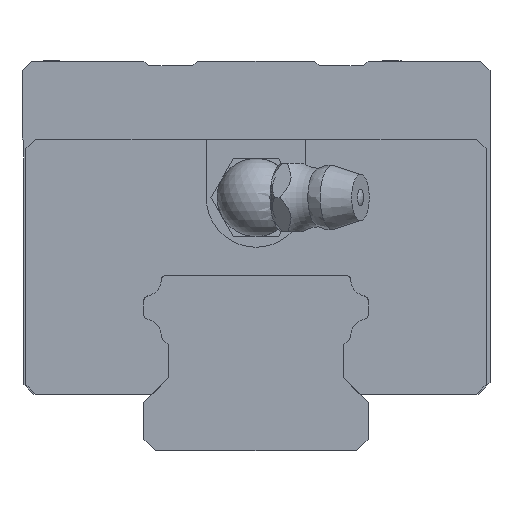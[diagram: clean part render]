
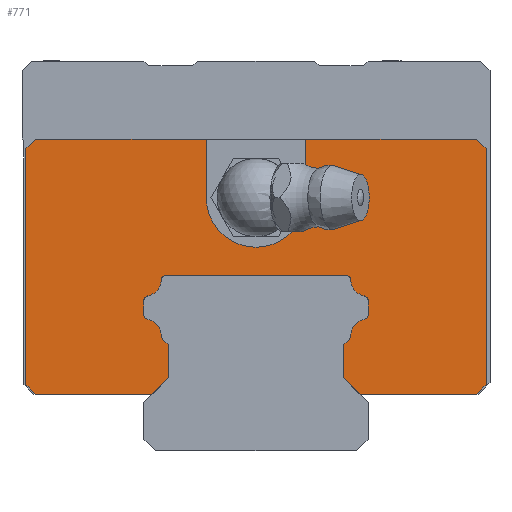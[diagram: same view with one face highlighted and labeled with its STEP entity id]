
A CAD part, front view. The second image highlights one B-rep face of the part: STEP entity #771.
In plain terms, the highlighted planar face has unit normal (0, -1, 0).
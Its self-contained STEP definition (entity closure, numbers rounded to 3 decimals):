
#563=CIRCLE('',#3370,0.5);
#565=CIRCLE('',#3373,1.7);
#567=CIRCLE('',#3376,0.5);
#569=CIRCLE('',#3380,0.5);
#571=CIRCLE('',#3383,1.7);
#573=CIRCLE('',#3386,0.5);
#575=CIRCLE('',#3390,0.5);
#577=CIRCLE('',#3393,1.7);
#579=CIRCLE('',#3396,0.5);
#581=CIRCLE('',#3400,0.5);
#583=CIRCLE('',#3403,1.7);
#585=CIRCLE('',#3406,0.5);
#609=CIRCLE('',#3481,5.1);
#771=ADVANCED_FACE('',(#1005),#884,.T.);
#884=PLANE('',#3482);
#1005=FACE_OUTER_BOUND('',#1214,.T.);
#1214=EDGE_LOOP('',(#1889,#1890,#1891,#1892,#1893,#1894,#1895,#1896,#1897,
#1898,#1899,#1900,#1901,#1902,#1903,#1904,#1905,#1906,#1907,#1908,#1909,
#1910,#1911,#1912,#1913,#1914,#1915,#1916,#1917,#1918,#1919,#1920,#1921,
#1922));
#1889=ORIENTED_EDGE('',*,*,#2559,.F.);
#1890=ORIENTED_EDGE('',*,*,#2562,.F.);
#1891=ORIENTED_EDGE('',*,*,#2565,.F.);
#1892=ORIENTED_EDGE('',*,*,#2568,.F.);
#1893=ORIENTED_EDGE('',*,*,#2571,.F.);
#1894=ORIENTED_EDGE('',*,*,#2574,.F.);
#1895=ORIENTED_EDGE('',*,*,#2577,.F.);
#1896=ORIENTED_EDGE('',*,*,#2580,.F.);
#1897=ORIENTED_EDGE('',*,*,#2583,.F.);
#1898=ORIENTED_EDGE('',*,*,#2586,.F.);
#1899=ORIENTED_EDGE('',*,*,#2589,.F.);
#1900=ORIENTED_EDGE('',*,*,#2592,.F.);
#1901=ORIENTED_EDGE('',*,*,#2595,.F.);
#1902=ORIENTED_EDGE('',*,*,#2598,.F.);
#1903=ORIENTED_EDGE('',*,*,#2601,.F.);
#1904=ORIENTED_EDGE('',*,*,#2604,.F.);
#1905=ORIENTED_EDGE('',*,*,#2607,.F.);
#1906=ORIENTED_EDGE('',*,*,#2610,.F.);
#1907=ORIENTED_EDGE('',*,*,#2613,.F.);
#1908=ORIENTED_EDGE('',*,*,#2616,.F.);
#1909=ORIENTED_EDGE('',*,*,#2619,.F.);
#1910=ORIENTED_EDGE('',*,*,#2622,.T.);
#1911=ORIENTED_EDGE('',*,*,#2663,.T.);
#1912=ORIENTED_EDGE('',*,*,#2660,.T.);
#1913=ORIENTED_EDGE('',*,*,#2665,.T.);
#1914=ORIENTED_EDGE('',*,*,#2671,.T.);
#1915=ORIENTED_EDGE('',*,*,#2681,.F.);
#1916=ORIENTED_EDGE('',*,*,#2682,.F.);
#1917=ORIENTED_EDGE('',*,*,#2683,.F.);
#1918=ORIENTED_EDGE('',*,*,#2667,.T.);
#1919=ORIENTED_EDGE('',*,*,#2672,.T.);
#1920=ORIENTED_EDGE('',*,*,#2656,.T.);
#1921=ORIENTED_EDGE('',*,*,#2662,.T.);
#1922=ORIENTED_EDGE('',*,*,#2556,.T.);
#2219=VERTEX_POINT('',#5018);
#2220=VERTEX_POINT('',#5020);
#2221=VERTEX_POINT('',#5024);
#2223=VERTEX_POINT('',#5030);
#2225=VERTEX_POINT('',#5036);
#2227=VERTEX_POINT('',#5042);
#2229=VERTEX_POINT('',#5048);
#2231=VERTEX_POINT('',#5054);
#2233=VERTEX_POINT('',#5060);
#2235=VERTEX_POINT('',#5066);
#2237=VERTEX_POINT('',#5072);
#2239=VERTEX_POINT('',#5078);
#2241=VERTEX_POINT('',#5084);
#2243=VERTEX_POINT('',#5090);
#2245=VERTEX_POINT('',#5096);
#2247=VERTEX_POINT('',#5102);
#2249=VERTEX_POINT('',#5108);
#2251=VERTEX_POINT('',#5114);
#2253=VERTEX_POINT('',#5120);
#2255=VERTEX_POINT('',#5126);
#2257=VERTEX_POINT('',#5132);
#2259=VERTEX_POINT('',#5138);
#2261=VERTEX_POINT('',#5144);
#2263=VERTEX_POINT('',#5150);
#2282=VERTEX_POINT('',#5233);
#2283=VERTEX_POINT('',#5235);
#2285=VERTEX_POINT('',#5241);
#2286=VERTEX_POINT('',#5243);
#2287=VERTEX_POINT('',#5251);
#2288=VERTEX_POINT('',#5255);
#2289=VERTEX_POINT('',#5257);
#2292=VERTEX_POINT('',#5263);
#2301=VERTEX_POINT('',#5295);
#2302=VERTEX_POINT('',#5297);
#2556=EDGE_CURVE('',#2220,#2219,#2872,.T.);
#2559=EDGE_CURVE('',#2221,#2219,#2875,.T.);
#2562=EDGE_CURVE('',#2223,#2221,#2878,.T.);
#2565=EDGE_CURVE('',#2225,#2223,#2881,.T.);
#2568=EDGE_CURVE('',#2227,#2225,#563,.T.);
#2571=EDGE_CURVE('',#2229,#2227,#565,.T.);
#2574=EDGE_CURVE('',#2231,#2229,#567,.T.);
#2577=EDGE_CURVE('',#2233,#2231,#2887,.T.);
#2580=EDGE_CURVE('',#2235,#2233,#569,.T.);
#2583=EDGE_CURVE('',#2237,#2235,#571,.T.);
#2586=EDGE_CURVE('',#2239,#2237,#573,.T.);
#2589=EDGE_CURVE('',#2241,#2239,#2893,.T.);
#2592=EDGE_CURVE('',#2243,#2241,#575,.T.);
#2595=EDGE_CURVE('',#2245,#2243,#577,.T.);
#2598=EDGE_CURVE('',#2247,#2245,#579,.T.);
#2601=EDGE_CURVE('',#2249,#2247,#2899,.T.);
#2604=EDGE_CURVE('',#2251,#2249,#581,.T.);
#2607=EDGE_CURVE('',#2253,#2251,#583,.T.);
#2610=EDGE_CURVE('',#2255,#2253,#585,.T.);
#2613=EDGE_CURVE('',#2257,#2255,#2905,.T.);
#2616=EDGE_CURVE('',#2259,#2257,#2908,.T.);
#2619=EDGE_CURVE('',#2261,#2259,#2911,.T.);
#2622=EDGE_CURVE('',#2261,#2263,#2914,.T.);
#2656=EDGE_CURVE('',#2283,#2282,#2935,.T.);
#2660=EDGE_CURVE('',#2286,#2285,#2938,.T.);
#2662=EDGE_CURVE('',#2282,#2220,#2940,.T.);
#2663=EDGE_CURVE('',#2263,#2286,#2941,.T.);
#2665=EDGE_CURVE('',#2285,#2287,#2943,.T.);
#2667=EDGE_CURVE('',#2289,#2288,#2945,.T.);
#2671=EDGE_CURVE('',#2287,#2292,#2949,.T.);
#2672=EDGE_CURVE('',#2288,#2283,#2950,.T.);
#2681=EDGE_CURVE('',#2301,#2292,#2951,.T.);
#2682=EDGE_CURVE('',#2302,#2301,#609,.T.);
#2683=EDGE_CURVE('',#2289,#2302,#2952,.T.);
#2872=LINE('',#5019,#3124);
#2875=LINE('',#5026,#3127);
#2878=LINE('',#5032,#3130);
#2881=LINE('',#5038,#3133);
#2887=LINE('',#5062,#3139);
#2893=LINE('',#5086,#3145);
#2899=LINE('',#5110,#3151);
#2905=LINE('',#5134,#3157);
#2908=LINE('',#5140,#3160);
#2911=LINE('',#5146,#3163);
#2914=LINE('',#5151,#3166);
#2935=LINE('',#5234,#3187);
#2938=LINE('',#5242,#3190);
#2940=LINE('',#5246,#3192);
#2941=LINE('',#5248,#3193);
#2943=LINE('',#5252,#3195);
#2945=LINE('',#5256,#3197);
#2949=LINE('',#5264,#3201);
#2950=LINE('',#5266,#3202);
#2951=LINE('',#5294,#3203);
#2952=LINE('',#5298,#3204);
#3124=VECTOR('',#3942,1.);
#3127=VECTOR('',#3947,1.);
#3130=VECTOR('',#3952,1.);
#3133=VECTOR('',#3957,1.);
#3139=VECTOR('',#3983,1.);
#3145=VECTOR('',#4009,1.);
#3151=VECTOR('',#4035,1.);
#3157=VECTOR('',#4061,1.);
#3160=VECTOR('',#4066,1.);
#3163=VECTOR('',#4071,1.);
#3166=VECTOR('',#4076,1.);
#3187=VECTOR('',#4183,1.);
#3190=VECTOR('',#4190,1.);
#3192=VECTOR('',#4194,1.);
#3193=VECTOR('',#4197,1.);
#3195=VECTOR('',#4201,1.);
#3197=VECTOR('',#4205,1.);
#3201=VECTOR('',#4209,1.);
#3202=VECTOR('',#4212,1.);
#3203=VECTOR('',#4251,1.);
#3204=VECTOR('',#4254,1.);
#3370=AXIS2_PLACEMENT_3D('',#5044,#3962,#3963);
#3373=AXIS2_PLACEMENT_3D('',#5050,#3969,#3970);
#3376=AXIS2_PLACEMENT_3D('',#5056,#3976,#3977);
#3380=AXIS2_PLACEMENT_3D('',#5068,#3988,#3989);
#3383=AXIS2_PLACEMENT_3D('',#5074,#3995,#3996);
#3386=AXIS2_PLACEMENT_3D('',#5080,#4002,#4003);
#3390=AXIS2_PLACEMENT_3D('',#5092,#4014,#4015);
#3393=AXIS2_PLACEMENT_3D('',#5098,#4021,#4022);
#3396=AXIS2_PLACEMENT_3D('',#5104,#4028,#4029);
#3400=AXIS2_PLACEMENT_3D('',#5116,#4040,#4041);
#3403=AXIS2_PLACEMENT_3D('',#5122,#4047,#4048);
#3406=AXIS2_PLACEMENT_3D('',#5128,#4054,#4055);
#3481=AXIS2_PLACEMENT_3D('',#5296,#4252,#4253);
#3482=AXIS2_PLACEMENT_3D('',#5299,#4255,#4256);
#3942=DIRECTION('',(1.,0.,0.));
#3947=DIRECTION('',(-0.707,0.,-0.707));
#3952=DIRECTION('',(0.,0.,-1.));
#3957=DIRECTION('',(0.707,0.,-0.707));
#3962=DIRECTION('',(0.,-1.,0.));
#3963=DIRECTION('',(0.,0.,-1.));
#3969=DIRECTION('',(0.,1.,0.));
#3970=DIRECTION('',(0.,0.,-1.));
#3976=DIRECTION('',(0.,-1.,0.));
#3977=DIRECTION('',(0.,0.,-1.));
#3983=DIRECTION('',(0.,0.,-1.));
#3988=DIRECTION('',(0.,-1.,0.));
#3989=DIRECTION('',(0.,0.,-1.));
#3995=DIRECTION('',(0.,1.,0.));
#3996=DIRECTION('',(0.,0.,-1.));
#4002=DIRECTION('',(0.,-1.,0.));
#4003=DIRECTION('',(0.,0.,-1.));
#4009=DIRECTION('',(-1.,0.,0.));
#4014=DIRECTION('',(0.,-1.,0.));
#4015=DIRECTION('',(0.,0.,-1.));
#4021=DIRECTION('',(0.,1.,0.));
#4022=DIRECTION('',(0.,0.,-1.));
#4028=DIRECTION('',(0.,-1.,0.));
#4029=DIRECTION('',(0.,0.,-1.));
#4035=DIRECTION('',(0.,0.,1.));
#4040=DIRECTION('',(0.,-1.,0.));
#4041=DIRECTION('',(0.,0.,-1.));
#4047=DIRECTION('',(0.,1.,0.));
#4048=DIRECTION('',(0.,0.,-1.));
#4054=DIRECTION('',(0.,-1.,0.));
#4055=DIRECTION('',(0.,0.,-1.));
#4061=DIRECTION('',(0.707,0.,0.707));
#4066=DIRECTION('',(0.,0.,1.));
#4071=DIRECTION('',(-0.707,0.,0.707));
#4076=DIRECTION('',(1.,0.,0.));
#4183=DIRECTION('',(0.,0.,-1.));
#4190=DIRECTION('',(0.,0.,1.));
#4194=DIRECTION('',(0.707,0.,-0.707));
#4197=DIRECTION('',(0.707,0.,0.707));
#4201=DIRECTION('',(-0.707,0.,0.707));
#4205=DIRECTION('',(-1.,0.,0.));
#4209=DIRECTION('',(-1.,0.,0.));
#4212=DIRECTION('',(-0.707,0.,-0.707));
#4251=DIRECTION('',(0.,0.,1.));
#4252=DIRECTION('',(0.,-1.,0.));
#4253=DIRECTION('',(1.,0.,0.));
#4254=DIRECTION('',(0.,0.,-1.));
#4255=DIRECTION('',(0.,-1.,0.));
#4256=DIRECTION('',(0.,0.,-1.));
#5018=CARTESIAN_POINT('',(-10.7,-19.,5.8));
#5019=CARTESIAN_POINT('',(-22.6,-19.,5.8));
#5020=CARTESIAN_POINT('',(-22.6,-19.,5.8));
#5024=CARTESIAN_POINT('',(-9.,-19.,7.5));
#5026=CARTESIAN_POINT('',(4.75,-19.,21.25));
#5030=CARTESIAN_POINT('',(-9.,-19.,10.9));
#5032=CARTESIAN_POINT('',(-9.,-19.,26.));
#5036=CARTESIAN_POINT('',(-9.58,-19.,11.48));
#5038=CARTESIAN_POINT('',(-12.05,-19.,13.95));
#5042=CARTESIAN_POINT('',(-9.726,-19.,11.834));
#5044=CARTESIAN_POINT('',(-9.226,-19.,11.833));
#5048=CARTESIAN_POINT('',(-11.097,-19.,13.504));
#5050=CARTESIAN_POINT('',(-11.426,-19.,11.836));
#5054=CARTESIAN_POINT('',(-11.5,-19.,13.995));
#5056=CARTESIAN_POINT('',(-11.,-19.,13.995));
#5060=CARTESIAN_POINT('',(-11.5,-19.,15.412));
#5062=CARTESIAN_POINT('',(-11.5,-19.,26.));
#5066=CARTESIAN_POINT('',(-11.097,-19.,15.902));
#5068=CARTESIAN_POINT('',(-11.,-19.,15.412));
#5072=CARTESIAN_POINT('',(-9.727,-19.,17.516));
#5074=CARTESIAN_POINT('',(-11.426,-19.,17.57));
#5078=CARTESIAN_POINT('',(-9.227,-19.,18.));
#5080=CARTESIAN_POINT('',(-9.227,-19.,17.5));
#5084=CARTESIAN_POINT('',(9.227,-19.,18.));
#5086=CARTESIAN_POINT('',(0.,-19.,18.));
#5090=CARTESIAN_POINT('',(9.727,-19.,17.516));
#5092=CARTESIAN_POINT('',(9.227,-19.,17.5));
#5096=CARTESIAN_POINT('',(11.097,-19.,15.902));
#5098=CARTESIAN_POINT('',(11.426,-19.,17.57));
#5102=CARTESIAN_POINT('',(11.5,-19.,15.412));
#5104=CARTESIAN_POINT('',(11.,-19.,15.412));
#5108=CARTESIAN_POINT('',(11.5,-19.,13.995));
#5110=CARTESIAN_POINT('',(11.5,-19.,26.));
#5114=CARTESIAN_POINT('',(11.097,-19.,13.504));
#5116=CARTESIAN_POINT('',(11.,-19.,13.995));
#5120=CARTESIAN_POINT('',(9.726,-19.,11.834));
#5122=CARTESIAN_POINT('',(11.426,-19.,11.836));
#5126=CARTESIAN_POINT('',(9.58,-19.,11.48));
#5128=CARTESIAN_POINT('',(9.226,-19.,11.833));
#5132=CARTESIAN_POINT('',(9.,-19.,10.9));
#5134=CARTESIAN_POINT('',(12.05,-19.,13.95));
#5138=CARTESIAN_POINT('',(9.,-19.,7.5));
#5140=CARTESIAN_POINT('',(9.,-19.,26.));
#5144=CARTESIAN_POINT('',(10.7,-19.,5.8));
#5146=CARTESIAN_POINT('',(-4.75,-19.,21.25));
#5150=CARTESIAN_POINT('',(22.6,-19.,5.8));
#5151=CARTESIAN_POINT('',(-22.6,-19.,5.8));
#5233=CARTESIAN_POINT('',(-23.6,-19.,6.8));
#5234=CARTESIAN_POINT('',(-23.6,-19.,31.));
#5235=CARTESIAN_POINT('',(-23.6,-19.,31.));
#5241=CARTESIAN_POINT('',(23.6,-19.,31.));
#5242=CARTESIAN_POINT('',(23.6,-19.,6.8));
#5243=CARTESIAN_POINT('',(23.6,-19.,6.8));
#5246=CARTESIAN_POINT('',(-23.6,-19.,6.8));
#5248=CARTESIAN_POINT('',(22.6,-19.,5.8));
#5251=CARTESIAN_POINT('',(22.6,-19.,32.));
#5252=CARTESIAN_POINT('',(23.6,-19.,31.));
#5255=CARTESIAN_POINT('',(-22.6,-19.,32.));
#5256=CARTESIAN_POINT('',(22.6,-19.,32.));
#5257=CARTESIAN_POINT('',(-5.1,-19.,32.));
#5263=CARTESIAN_POINT('',(5.1,-19.,32.));
#5264=CARTESIAN_POINT('',(22.6,-19.,32.));
#5266=CARTESIAN_POINT('',(-22.6,-19.,32.));
#5294=CARTESIAN_POINT('',(5.1,-19.,26.));
#5295=CARTESIAN_POINT('',(5.1,-19.,26.));
#5296=CARTESIAN_POINT('',(0.,-19.,26.));
#5297=CARTESIAN_POINT('',(-5.1,-19.,26.));
#5298=CARTESIAN_POINT('',(-5.1,-19.,32.));
#5299=CARTESIAN_POINT('',(0.,-19.,26.));
